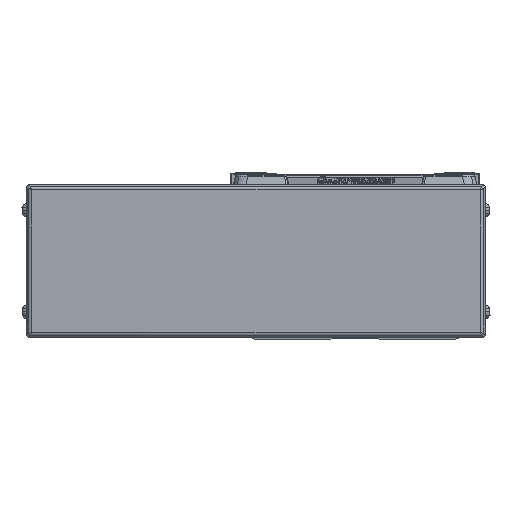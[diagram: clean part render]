
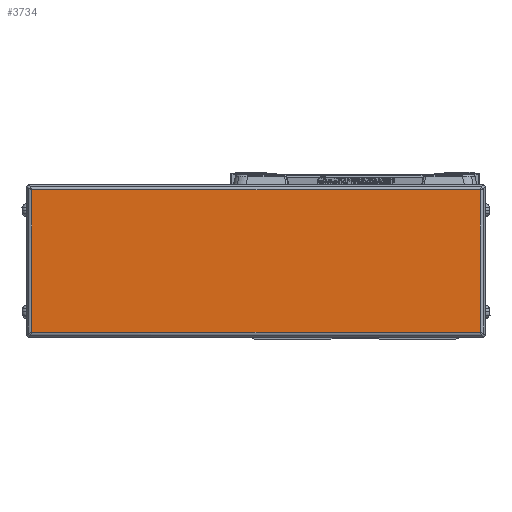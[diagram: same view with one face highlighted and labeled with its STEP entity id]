
A CAD part, left-side view. The second image highlights one B-rep face of the part: STEP entity #3734.
In plain terms, the highlighted planar face has unit normal (-1, 0, 0).
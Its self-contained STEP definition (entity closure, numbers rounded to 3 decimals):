
#3734=ADVANCED_FACE('',(#8497),#8498,.F.);
#8497=FACE_OUTER_BOUND('',#14766,.T.);
#8498=PLANE('',#14767);
#14766=EDGE_LOOP('',(#25706,#25707,#25708,#25709));
#14767=AXIS2_PLACEMENT_3D('',#25710,#25711,#25712);
#25706=ORIENTED_EDGE('',*,*,#35405,.T.);
#25707=ORIENTED_EDGE('',*,*,#38560,.T.);
#25708=ORIENTED_EDGE('',*,*,#39365,.T.);
#25709=ORIENTED_EDGE('',*,*,#39366,.T.);
#25710=CARTESIAN_POINT('',(-616.,39.,0.));
#25711=DIRECTION('',(1.0,0.,0.));
#25712=DIRECTION('',(0.,0.,1.0));
#35405=EDGE_CURVE('',#42096,#42094,#42097,.T.);
#38560=EDGE_CURVE('',#42094,#43241,#47387,.T.);
#39365=EDGE_CURVE('',#43241,#43492,#48563,.T.);
#39366=EDGE_CURVE('',#43492,#42096,#48564,.T.);
#42094=VERTEX_POINT('',#51872);
#42096=VERTEX_POINT('',#51874);
#42097=LINE('',#51875,#51876);
#43241=VERTEX_POINT('',#53428);
#43492=VERTEX_POINT('',#53758);
#47387=LINE('',#59118,#59119);
#48563=LINE('',#60760,#60761);
#48564=LINE('',#60762,#60763);
#51872=CARTESIAN_POINT('',(-616.0,127.2,28.));
#51874=CARTESIAN_POINT('',(-616.,-49.2,28.));
#51875=CARTESIAN_POINT('',(-616.,39.,28.));
#51876=VECTOR('',#65139,10.0);
#53428=CARTESIAN_POINT('',(-616.0,127.2,-28.));
#53758=CARTESIAN_POINT('',(-616.,-49.2,-28.));
#59118=CARTESIAN_POINT('',(-616.0,127.2,0.));
#59119=VECTOR('',#69510,10.0);
#60760=CARTESIAN_POINT('',(-616.0,39.,-28.));
#60761=VECTOR('',#70593,10.0);
#60762=CARTESIAN_POINT('',(-616.,-49.2,0.));
#60763=VECTOR('',#70594,10.0);
#65139=DIRECTION('',(0.,1.0,0.));
#69510=DIRECTION('',(0.,0.,-1.0));
#70593=DIRECTION('',(0.,-1.0,0.));
#70594=DIRECTION('',(0.,0.,1.0));
